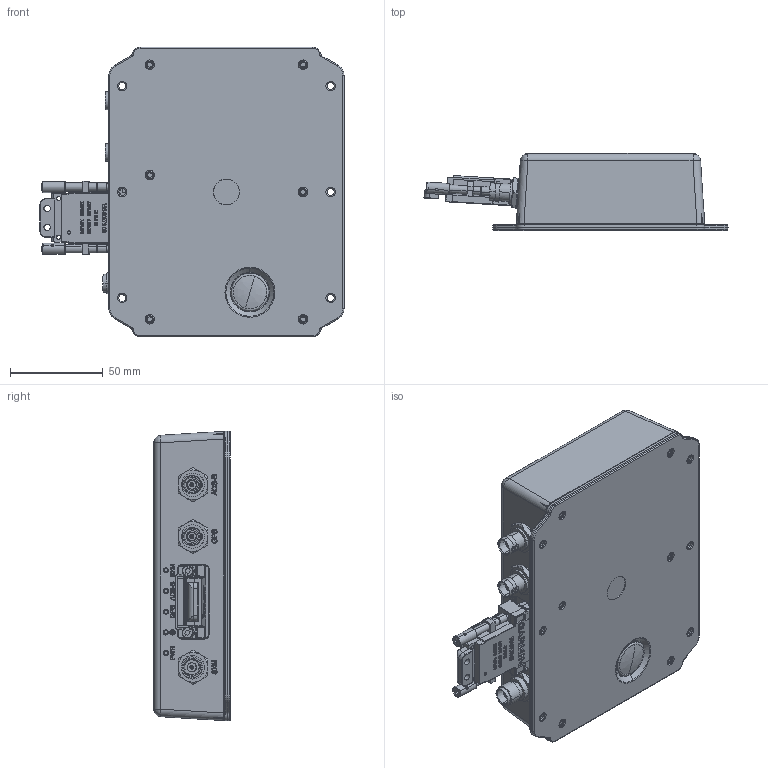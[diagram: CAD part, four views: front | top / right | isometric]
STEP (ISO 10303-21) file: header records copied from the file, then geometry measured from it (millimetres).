
FILE_DESCRIPTION (( 'STEP AP203' ), '1' );
FILE_NAME ('GDL52R_011-03910-35_C[011-01855-01]_rev1.STEP', '2018-06-05T16:52:46', ( 'Garmin' ), ( 'Garmin' ), 'SwSTEP 2.0', 'SolidWorks 2016', '' );
FILE_SCHEMA (( 'CONFIG_CONTROL_DESIGN' ));
Length unit declared in the file: inch
Products named in the file (1): GDL52R_011-03910-35_C[011-01855-01]_rev1
Bounding box: 164.18 x 41.35 x 156.38 mm (x, y, z)
Volume: 663662.5 mm3; surface area: 71261.7 mm2
Topology: 2 solids, 13 shells, 2953 faces, 7540 edges, 4891 vertices
Faces by surface type: plane 1454, bspline 731, cylinder 502, cone 190, torus 66, sphere 10
Entity records: 133129 total; most frequent: CARTESIAN_POINT 67707, ORIENTED_EDGE 15044, DIRECTION 10793, EDGE_CURVE 7522, VERTEX_POINT 4891, LINE 3929, VECTOR 3929, AXIS2_PLACEMENT_3D 3432
